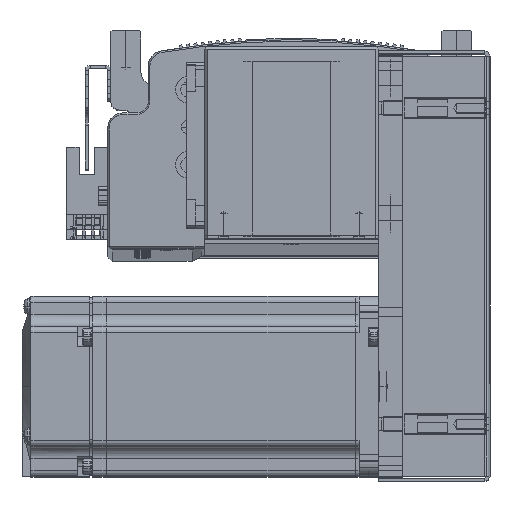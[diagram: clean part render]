
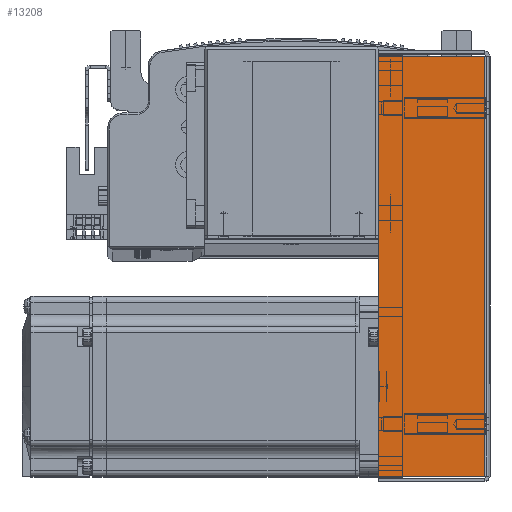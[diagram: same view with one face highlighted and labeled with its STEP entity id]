
A CAD part, top view. The second image highlights one B-rep face of the part: STEP entity #13208.
In plain terms, the highlighted planar face has unit normal (0, 0, 1).
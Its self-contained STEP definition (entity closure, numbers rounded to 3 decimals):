
#13208 = ADVANCED_FACE ( 'NONE', ( #84299 ), #30277, .F. ) ;
#14986 = ORIENTED_EDGE ( 'NONE', *, *, #59337, .T. ) ;
#15098 = ORIENTED_EDGE ( 'NONE', *, *, #59340, .F. ) ;
#15119 = ORIENTED_EDGE ( 'NONE', *, *, #59449, .F. ) ;
#15147 = ORIENTED_EDGE ( 'NONE', *, *, #59258, .T. ) ;
#27261 = VERTEX_POINT ( 'NONE', #27520 ) ;
#27292 = VERTEX_POINT ( 'NONE', #27576 ) ;
#27520 = CARTESIAN_POINT ( 'NONE',  ( 69.793, 0.737, 33.5 ) ) ;
#27576 = CARTESIAN_POINT ( 'NONE',  ( -69.793, 0.737, 33.5 ) ) ;
#27579 = CARTESIAN_POINT ( 'NONE',  ( -69.793, 36., 33.5 ) ) ;
#27587 = CARTESIAN_POINT ( 'NONE',  ( 69.793, 36., 33.5 ) ) ;
#27805 = VERTEX_POINT ( 'NONE', #27579 ) ;
#27816 = VERTEX_POINT ( 'NONE', #27587 ) ;
#28688 = EDGE_LOOP ( 'NONE', ( #15098, #15147, #14986, #15119 ) ) ;
#30277 = PLANE ( 'NONE',  #41580 ) ;
#30298 = CARTESIAN_POINT ( 'NONE',  ( 0., 0., 33.5 ) ) ;
#30326 = DIRECTION ( 'NONE',  ( 0., 0., -1. ) ) ;
#30344 = DIRECTION ( 'NONE',  ( -1., 0., 0. ) ) ;
#41580 = AXIS2_PLACEMENT_3D ( 'NONE', #30298, #30326, #30344 ) ;
#59258 = EDGE_CURVE ( 'NONE', #27261, #27816, #66469, .T. ) ;
#59337 = EDGE_CURVE ( 'NONE', #27816, #27805, #66571, .T. ) ;
#59340 = EDGE_CURVE ( 'NONE', #27261, #27292, #66552, .T. ) ;
#59449 = EDGE_CURVE ( 'NONE', #27292, #27805, #66603, .T. ) ;
#64970 = CARTESIAN_POINT ( 'NONE',  ( 69.793, 0., 33.5 ) ) ;
#64976 = DIRECTION ( 'NONE',  ( 0., 1., 0. ) ) ;
#65063 = CARTESIAN_POINT ( 'NONE',  ( 0., 36., 33.5 ) ) ;
#65066 = DIRECTION ( 'NONE',  ( -1., 0., 0. ) ) ;
#65067 = CARTESIAN_POINT ( 'NONE',  ( -71.5, 0.737, 33.5 ) ) ;
#65068 = DIRECTION ( 'NONE',  ( -1., 0., 0. ) ) ;
#65250 = DIRECTION ( 'NONE',  ( 0., 1., 0. ) ) ;
#65279 = CARTESIAN_POINT ( 'NONE',  ( -69.793, 0., 33.5 ) ) ;
#66469 = LINE ( 'NONE', #64970, #66476 ) ;
#66476 = VECTOR ( 'NONE', #64976, 1000. ) ;
#66530 = VECTOR ( 'NONE', #65066, 1000. ) ;
#66552 = LINE ( 'NONE', #65067, #66561 ) ;
#66561 = VECTOR ( 'NONE', #65068, 1000. ) ;
#66571 = LINE ( 'NONE', #65063, #66530 ) ;
#66603 = LINE ( 'NONE', #65279, #66620 ) ;
#66620 = VECTOR ( 'NONE', #65250, 1000. ) ;
#84299 = FACE_OUTER_BOUND ( 'NONE', #28688, .T. ) ;
